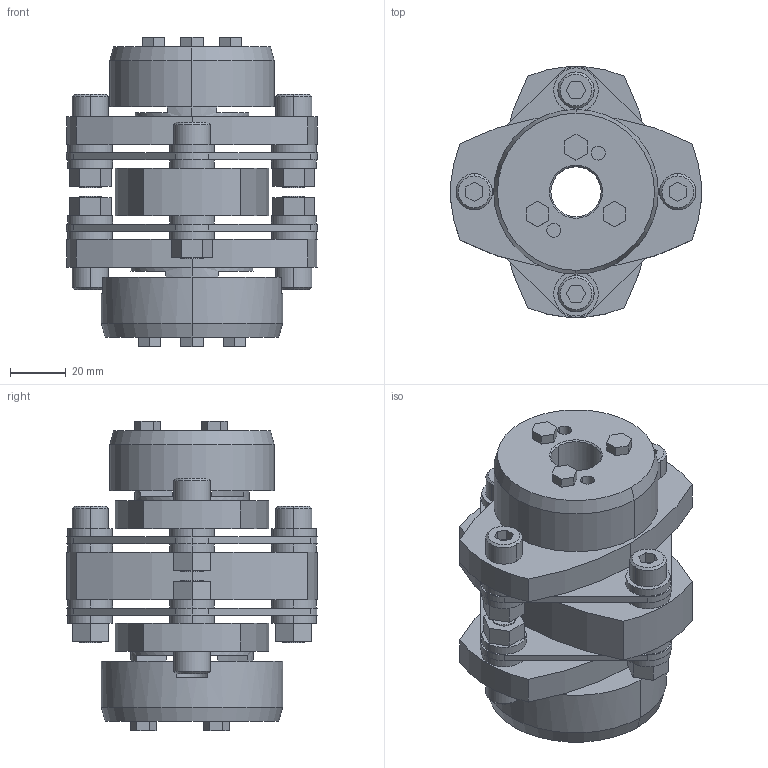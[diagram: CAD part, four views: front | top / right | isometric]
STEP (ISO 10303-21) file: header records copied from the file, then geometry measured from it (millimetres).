
FILE_DESCRIPTION((''),'2;1');
FILE_NAME('LCD-90T7-18×22.stp','2015-11-01T19:59:22',(''),(''),'AutoCAD STEP 2000i','AutoCAD 2000i',', , ');
FILE_SCHEMA(('CONFIG_CONTROL_DESIGN'));
Length unit declared in the file: millimetre
Products named in the file (6): LCD-90T7-19×20; 忣兜1; LC90T7-T020-1; LC90T7-T019-1; LC90T7-T019; LCD90-ITA
Assembly tree (5 placements, depth 2):
  LCD-90T7-19×20
    忣兜1
    LC90T7-T020-1
    LC90T7-T019-1
    LC90T7-T019
    LCD90-ITA
Bounding box: 90 x 89.94 x 111 mm (x, y, z)
Volume: 289317.8 mm3; surface area: 75387.8 mm2
Topology: 1 solids, 1 shells, 324 faces, 792 edges, 520 vertices
Faces by surface type: plane 178, cylinder 122, cone 24
Entity records: 9789 total; most frequent: DIRECTION 1740, CARTESIAN_POINT 1642, ORIENTED_EDGE 1584, EDGE_CURVE 792, AXIS2_PLACEMENT_3D 618, VERTEX_POINT 520, VECTOR 504, LINE 504
